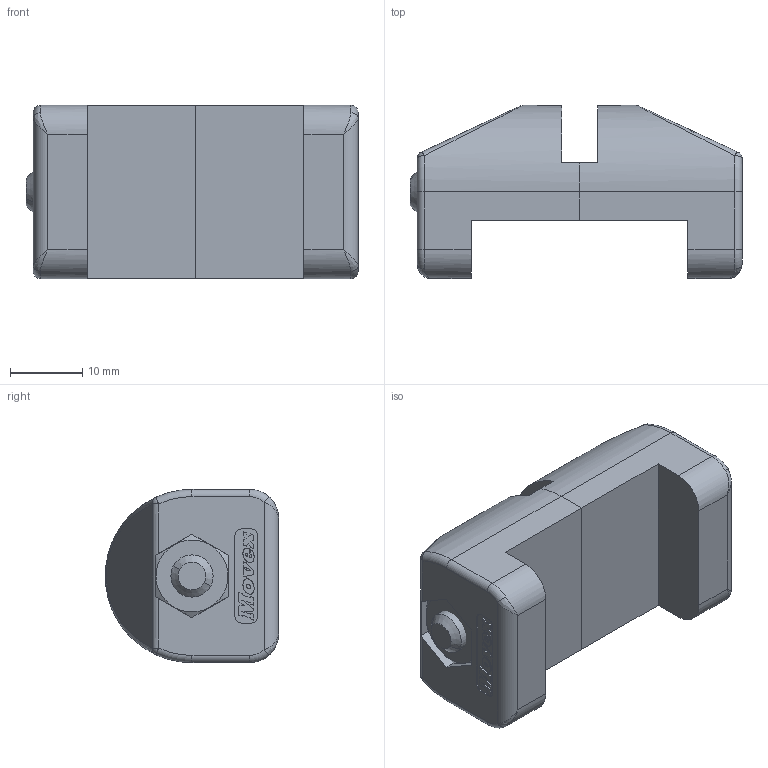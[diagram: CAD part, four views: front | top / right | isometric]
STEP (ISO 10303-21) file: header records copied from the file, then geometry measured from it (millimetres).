
FILE_DESCRIPTION(('CATIA V5 STEP Exchange'),'2;1');
FILE_NAME('X:\CODICI MOVEX\3D per clienti\Graham Taylor\16-09-2014\P42105_01.stp','2014-09-16T06:30:47+00:00',('none'),('none'),'Version 5-6 Release 2012','CATIA V5 STEP AP203','none');
FILE_SCHEMA(('CONFIG_CONTROL_DESIGN'));
Length unit declared in the file: millimetre
Products named in the file (1): P42105_01
Assembly tree (4 placements, depth 2):
  P42105_01
    #57  x2
    #17195
    #18073
Bounding box: 46 x 24 x 24 mm (x, y, z)
Volume: 15095.4 mm3; surface area: 7498.6 mm2
Topology: 4 solids, 4 shells, 1059 faces, 3070 edges, 2018 vertices
Faces by surface type: plane 949, cylinder 68, bspline 18, torus 12, cone 8, sphere 4
Entity records: 18562 total; most frequent: CARTESIAN_POINT 4335, ORIENTED_EDGE 3158, DIRECTION 2539, EDGE_CURVE 1579, VECTOR 1428, LINE 1428, VERTEX_POINT 1044, AXIS2_PLACEMENT_3D 602
